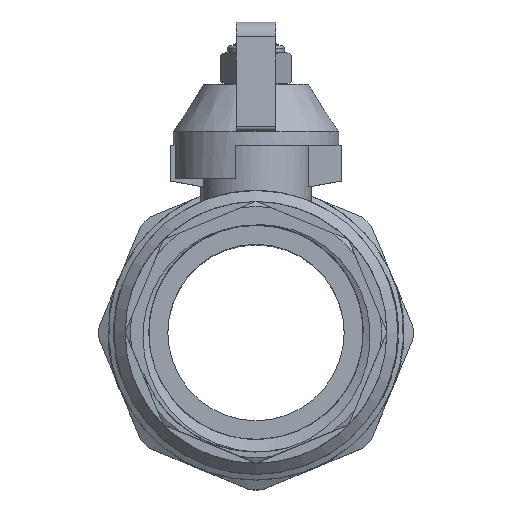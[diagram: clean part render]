
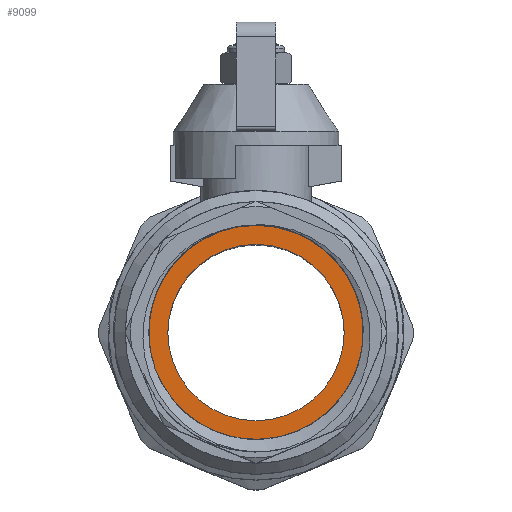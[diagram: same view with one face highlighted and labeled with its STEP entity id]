
A CAD part, top view. The second image highlights one B-rep face of the part: STEP entity #9099.
In plain terms, the highlighted planar face has unit normal (0, 0, 1).
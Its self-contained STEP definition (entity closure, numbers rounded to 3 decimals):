
#148=FACE_BOUND('',#1617,.T.);
#544=PLANE('',#9725);
#1043=FACE_OUTER_BOUND('',#1616,.T.);
#1616=EDGE_LOOP('',(#8241));
#1617=EDGE_LOOP('',(#8242));
#3550=CIRCLE('',#9621,19.45);
#3598=CIRCLE('',#9724,16.);
#4358=VERTEX_POINT('',#23027);
#4439=VERTEX_POINT('',#23395);
#5602=EDGE_CURVE('',#4358,#4358,#3550,.T.);
#5738=EDGE_CURVE('',#4439,#4439,#3598,.T.);
#8241=ORIENTED_EDGE('',*,*,#5602,.F.);
#8242=ORIENTED_EDGE('',*,*,#5738,.T.);
#9099=ADVANCED_FACE('',(#1043,#148),#544,.T.);
#9621=AXIS2_PLACEMENT_3D('',#23028,#11228,#11229);
#9724=AXIS2_PLACEMENT_3D('',#23396,#11474,#11475);
#9725=AXIS2_PLACEMENT_3D('',#23397,#11476,#11477);
#11228=DIRECTION('center_axis',(0.,0.,-1.));
#11229=DIRECTION('ref_axis',(-1.,0.,0.));
#11474=DIRECTION('center_axis',(0.,0.,-1.));
#11475=DIRECTION('ref_axis',(-1.,0.,0.));
#11476=DIRECTION('center_axis',(0.,0.,1.));
#11477=DIRECTION('ref_axis',(1.,0.,0.));
#23027=CARTESIAN_POINT('',(19.45,0.,0.));
#23028=CARTESIAN_POINT('Origin',(0.,0.,0.));
#23395=CARTESIAN_POINT('',(16.,0.,0.));
#23396=CARTESIAN_POINT('Origin',(0.,0.,0.));
#23397=CARTESIAN_POINT('Origin',(0.,0.,0.));
